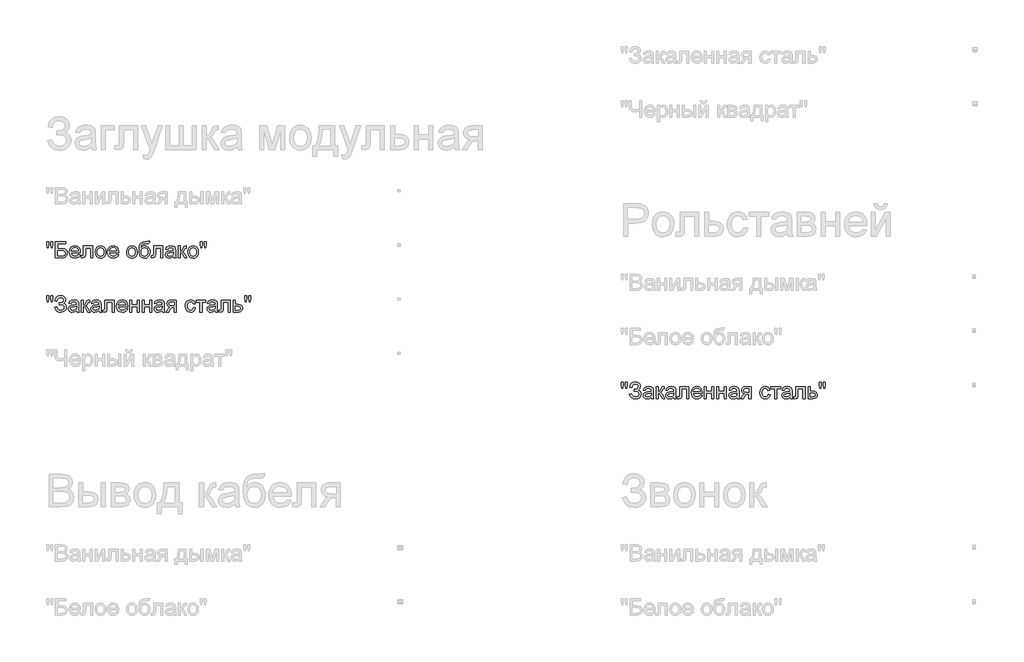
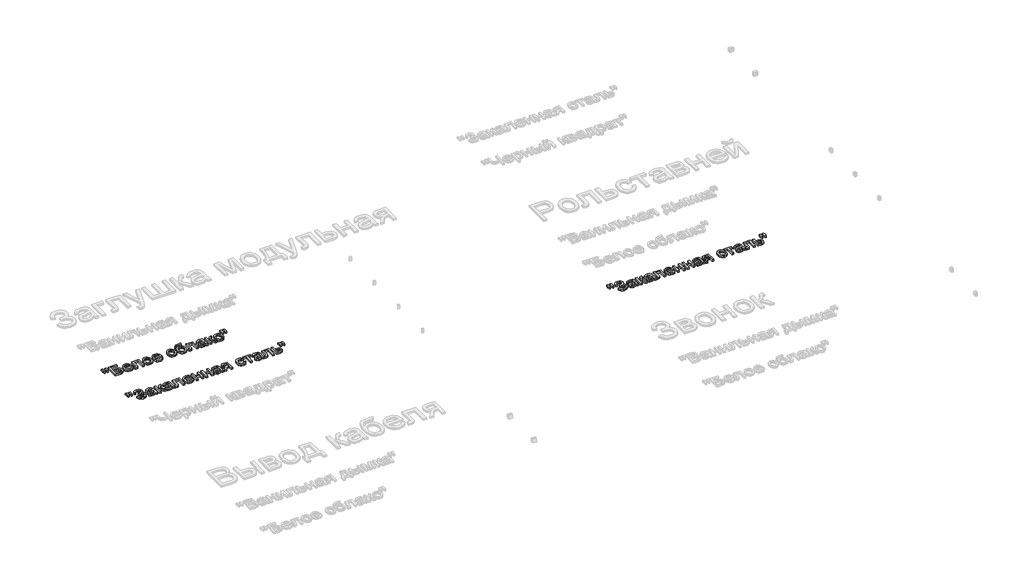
# One storey, part 67 of 168: 3 proxies.
"""IFC4 building model written with IfcOpenShell, lengths in millimetres."""

from ifc_helpers import new_model, si_unit, origin, origin_with_axes, place, context, project, spatial, polyline, outline, extrude, element, save

model = new_model("IFC4")

# Units and contexts
model_context = context("Model", 3, world=origin())
ifc_project = project(units=[si_unit("LENGTHUNIT", "METRE", prefix="MILLI")], contexts=[model_context])

# Site, building, storey
site = spatial("IfcSite", under=ifc_project)
building = spatial("IfcBuilding", under=site)
storey = spatial("IfcBuildingStorey", under=building, Name="Этаж 01", Elevation=0.0)

# Proxies
placement = place(None, origin())
element("IfcBuildingElementProxy", 1, Name="150", ObjectType="150", at=placement, inside=storey, context=model_context, shape_type="SweptSolid", body=[
    extrude(outline(polyline([(49080.1485789, -35170.3300622), (49075.550054, -35141.2305964), (49075.550054, -35116.1778325), (49094.3856121, -35116.1778325), (49094.3856121, -35141.2305964), (49090.2653338, -35170.3300622), (49080.1485789, -35170.3300622)])), origin_with_axes(), (0.0, 0.0, 1.0), 20.0),
    extrude(outline(polyline([(49117.7093306, -35170.3300622), (49113.2211703, -35141.2305964), (49113.2211703, -35116.1778325), (49132.0567284, -35116.1778325), (49132.0567284, -35141.2305964), (49127.6421445, -35170.3300622), (49117.7093306, -35170.3300622)])), origin_with_axes(), (0.0, 0.0, 1.0), 20.0),
    extrude(outline(polyline([(49157.9556209, -35116.1778325), (49252.1334117, -35116.1778325), (49252.1334117, -35135.0133907), (49176.791179, -35135.0133907), (49176.791179, -35179.7478413), (49212.0710624, -35179.7478413), (49243.157091, -35183.573814), (49253.5589544, -35189.101241), (49261.6615553, -35198.0315764), (49266.8762826, -35209.5278888), (49268.614525, -35222.7532465), (49263.6665122, -35244.2191609), (49248.8960501, -35260.5347274), (49235.6247071, -35265.2804052), (49215.4555767, -35266.8622977), (49157.9556209, -35266.8622977), (49157.9556209, -35116.1778325)]), holes=[polyline([(49176.791179, -35248.0267396), (49217.1478339, -35248.0267396), (49231.4124583, -35246.4724382), (49241.6119866, -35241.8095339), (49247.7372218, -35234.0380267), (49249.7789669, -35223.1579167), (49245.1068655, -35208.4058487), (49232.102237, -35200.533174), (49203.7201411, -35198.5833994), (49176.791179, -35198.5833994), (49176.791179, -35248.0267396)])]), origin_with_axes(), (0.0, 0.0, 1.0), 20.0),
    extrude(outline(polyline([(49369.6349209, -35233.900071), (49388.1025971, -35236.2545157), (49381.4485315, -35250.1696522), (49370.8305374, -35260.5715156), (49356.4877381, -35267.0554358), (49338.6592569, -35269.2167425), (49316.5587461, -35265.4873388), (49299.5534008, -35254.2991276), (49288.710079, -35236.3786759), (49285.0956384, -35212.4525506), (49288.7468672, -35187.7216835), (49299.7005536, -35169.2264162), (49316.4759726, -35157.6933157), (49337.5923991, -35153.8489488), (49358.0512366, -35157.6841186), (49374.3989927, -35169.189628), (49385.1181544, -35187.6481071), (49388.6912083, -35212.342186), (49388.5808437, -35217.4189576), (49303.9311966, -35217.4189576), (49307.1915508, -35231.518035), (49314.7653213, -35241.8831103), (49325.6960151, -35248.2566658), (49339.0271389, -35250.3811843), (49357.4948151, -35246.444847), (49369.6349209, -35233.900071)]), holes=[polyline([(49303.9311966, -35198.5833994), (49369.8556501, -35198.5833994), (49367.3080673, -35188.6321915), (49362.3140692, -35181.5136749), (49351.3327917, -35174.8917989), (49337.5188227, -35172.684507), (49324.8222954, -35174.445742), (49314.3238629, -35179.7294472), (49307.0260039, -35187.9654053), (49303.9311966, -35198.5833994)])]), origin_with_axes(), (0.0, 0.0, 1.0), 20.0),
    extrude(outline(polyline([(49416.9445455, -35156.2033936), (49501.7045572, -35156.2033936), (49501.7045572, -35266.7519331), (49482.868999, -35266.7519331), (49482.868999, -35175.0389517), (49435.7801036, -35175.0389517), (49435.7801036, -35227.830018), (49434.5109108, -35252.1838061), (49427.539547, -35262.4661079), (49411.0584336, -35266.8622977), (49395.7545426, -35265.9058045), (49395.7545426, -35248.0267396), (49404.1790403, -35248.0267396), (49412.6955084, -35246.8679113), (49416.0984169, -35243.1890913), (49416.9445455, -35226.7631603), (49416.9445455, -35156.2033936)])), origin_with_axes(), (0.0, 0.0, 1.0), 20.0),
    extrude(outline(polyline([(49525.2490049, -35211.5328457), (49529.323298, -35184.852204), (49541.5461773, -35166.0994193), (49556.6477332, -35156.9115664), (49574.7291332, -35153.8489488), (49594.516586, -35157.5783525), (49610.3217163, -35168.7665637), (49620.6821929, -35186.5306656), (49624.1356852, -35209.9877413), (49622.6089749, -35229.0164375), (49618.0288441, -35243.501791), (49610.5286499, -35254.3497114), (49600.2417496, -35262.4661079), (49588.0234688, -35267.5290839), (49574.7291332, -35269.2167425), (49554.7025571, -35265.5011344), (49538.915821, -35254.3543099), (49528.6657089, -35236.2177275), (49525.2490049, -35211.5328457)]), holes=[polyline([(49544.084563, -35211.4960575), (49546.2642638, -35228.5427894), (49552.8033663, -35240.6874938), (49562.6442097, -35247.9577617), (49574.7291332, -35250.3811843), (49586.7588745, -35247.9439661), (49596.5813237, -35240.6323115), (49603.1204262, -35228.3266587), (49605.300127, -35210.9074463), (49603.1066306, -35194.357355), (49596.5261414, -35182.3781975), (49586.6898966, -35175.1079296), (49574.7291332, -35172.684507), (49562.6442097, -35175.0987326), (49552.8033663, -35182.3414093), (49546.2642638, -35194.4585226), (49544.084563, -35211.4960575)])]), origin_with_axes(), (0.0, 0.0, 1.0), 20.0),
    extrude(outline(polyline([(49722.8016363, -35233.900071), (49741.2693124, -35236.2545157), (49734.6152469, -35250.1696522), (49723.9972528, -35260.5715156), (49709.6544535, -35267.0554358), (49691.8259723, -35269.2167425), (49669.7254614, -35265.4873388), (49652.7201162, -35254.2991276), (49641.8767944, -35236.3786759), (49638.2623538, -35212.4525506), (49641.9135826, -35187.7216835), (49652.867269, -35169.2264162), (49669.642688, -35157.6933157), (49690.7591145, -35153.8489488), (49711.217952, -35157.6841186), (49727.5657081, -35169.189628), (49738.2848698, -35187.6481071), (49741.8579236, -35212.342186), (49741.747559, -35217.4189576), (49657.0979119, -35217.4189576), (49660.3582661, -35231.518035), (49667.9320367, -35241.8831103), (49678.8627305, -35248.2566658), (49692.1938543, -35250.3811843), (49710.6615304, -35246.444847), (49722.8016363, -35233.900071)]), holes=[polyline([(49657.0979119, -35198.5833994), (49723.0223655, -35198.5833994), (49720.4747827, -35188.6321915), (49715.4807846, -35181.5136749), (49704.499507, -35174.8917989), (49690.6855381, -35172.684507), (49677.9890107, -35174.445742), (49667.4905783, -35179.7294472), (49660.1927192, -35187.9654053), (49657.0979119, -35198.5833994)])]), origin_with_axes(), (0.0, 0.0, 1.0), 20.0),
    extrude(outline(polyline([(49814.8457115, -35211.5328457), (49818.9200046, -35184.852204), (49831.1428839, -35166.0994193), (49846.2444398, -35156.9115664), (49864.3258398, -35153.8489488), (49884.1132926, -35157.5783525), (49899.9184229, -35168.7665637), (49910.2788995, -35186.5306656), (49913.7323918, -35209.9877413), (49912.2056815, -35229.0164375), (49907.6255507, -35243.501791), (49900.1253565, -35254.3497114), (49889.8384562, -35262.4661079), (49877.6201754, -35267.5290839), (49864.3258398, -35269.2167425), (49844.2992637, -35265.5011344), (49828.5125276, -35254.3543099), (49818.2624155, -35236.2177275), (49814.8457115, -35211.5328457)]), holes=[polyline([(49833.6812696, -35211.4960575), (49835.8609704, -35228.5427894), (49842.4000729, -35240.6874938), (49852.2409163, -35247.9577617), (49864.3258398, -35250.3811843), (49876.3555811, -35247.9439661), (49886.1780303, -35240.6323115), (49892.7171328, -35228.3266587), (49894.8968336, -35210.9074463), (49892.7033372, -35194.357355), (49886.122848, -35182.3781975), (49876.2866032, -35175.1079296), (49864.3258398, -35172.684507), (49852.2409163, -35175.0987326), (49842.4000729, -35182.3414093), (49835.8609704, -35194.4585226), (49833.6812696, -35211.4960575)])]), origin_with_axes(), (0.0, 0.0, 1.0), 20.0),
    extrude(outline(polyline([(50012.6190721, -35113.8233877), (50029.1001855, -35113.8233877), (50024.2441431, -35128.5202734), (50014.6424231, -35133.8361683), (49991.576222, -35135.0133907), (49960.5085875, -35139.3543982), (49953.3808738, -35145.0013868), (49948.5892108, -35153.2603376), (49944.560903, -35177.8716431), (49960.8764695, -35159.8454253), (49970.7954878, -35155.3480679), (49981.9009255, -35153.8489488), (50001.4998388, -35157.661126), (50017.401538, -35169.0976575), (50027.9413572, -35187.0365033), (50031.4546302, -35210.3556233), (50029.7117893, -35228.3358558), (50024.4832664, -35242.766027), (50007.9469707, -35262.3189551), (49996.6529935, -35267.4922957), (49981.9009255, -35269.2167425), (49964.9001788, -35266.995655), (49952.1576662, -35260.3323923), (49942.7812738, -35250.2064404), (49935.8788879, -35237.597285), (49931.6298508, -35218.6099755), (49930.2135052, -35189.3495614), (49933.786559, -35153.2097538), (49944.5057207, -35131.1690238), (49962.6377045, -35119.9256303), (49988.449225, -35116.1778325), (50009.4184987, -35115.7547682), (50012.6190721, -35113.8233877)]), holes=[polyline([(50012.6190721, -35209.7670121), (50010.577327, -35194.9459662), (50004.4520918, -35183.0771733), (49994.6112484, -35175.2826736), (49981.4226789, -35172.684507), (49967.6730893, -35175.4298264), (49957.473561, -35183.6657845), (49951.1551877, -35196.4910706), (49949.0490633, -35213.0043736), (49951.3759169, -35229.011839), (49958.3564778, -35240.7610702), (49968.7491442, -35247.9761558), (49981.3123143, -35250.3811843), (49993.9398638, -35247.5990768), (50003.937057, -35239.252754), (50010.4485683, -35226.3171033), (50012.6190721, -35209.7670121)])]), origin_with_axes(), (0.0, 0.0, 1.0), 20.0),
    extrude(outline(polyline([(50064.416857, -35156.2033936), (50149.1768687, -35156.2033936), (50149.1768687, -35266.7519331), (50130.3413105, -35266.7519331), (50130.3413105, -35175.0389517), (50083.2524152, -35175.0389517), (50083.2524152, -35227.830018), (50081.9832223, -35252.1838061), (50075.0118585, -35262.4661079), (50058.5307451, -35266.8622977), (50043.2268541, -35265.9058045), (50043.2268541, -35248.0267396), (50051.6513518, -35248.0267396), (50060.16782, -35246.8679113), (50063.5707284, -35243.1890913), (50064.416857, -35226.7631603), (50064.416857, -35156.2033936)])), origin_with_axes(), (0.0, 0.0, 1.0), 20.0),
    extrude(outline(polyline([(50248.063549, -35252.7356291), (50229.7982079, -35265.5011344), (50209.6198805, -35269.2167425), (50193.8791296, -35266.9818594), (50182.2678542, -35260.27721), (50175.1079508, -35250.0960758), (50172.7213164, -35237.4317381), (50176.3265599, -35222.5325173), (50185.7995213, -35211.7167867), (50198.9880908, -35205.5363691), (50215.2852632, -35202.7036778), (50247.9531844, -35196.2289547), (50248.063549, -35192.0350999), (50246.766765, -35183.6289963), (50242.8764129, -35178.1291605), (50234.1760037, -35174.0456704), (50222.0542919, -35172.684507), (50202.9980046, -35176.3081446), (50193.9113193, -35189.1656204), (50175.0757612, -35186.8111756), (50183.2243473, -35168.4170758), (50199.6318843, -35157.6381334), (50224.4823131, -35153.8489488), (50247.3093909, -35157.196675), (50260.2036548, -35165.6027786), (50265.9794022, -35178.3866779), (50266.8991071, -35194.8677913), (50266.8991071, -35218.3018744), (50267.8556003, -35251.0249778), (50271.6079967, -35266.8622977), (50252.7724385, -35266.8622977), (50248.063549, -35252.7356291)]), holes=[polyline([(50248.063549, -35215.0645128), (50217.6764962, -35220.8402601), (50201.4712943, -35223.8936807), (50194.1320485, -35228.8600876), (50191.5568745, -35236.1073629), (50197.167075, -35246.2976942), (50213.6297942, -35250.3811843), (50232.6860816, -35245.8746299), (50244.9733402, -35234.9669288), (50247.9531844, -35220.3988017), (50248.063549, -35215.0645128)])]), origin_with_axes(), (0.0, 0.0, 1.0), 20.0),
    extrude(outline(polyline([(50292.7979996, -35156.2033936), (50311.6335578, -35156.2033936), (50311.6335578, -35203.292289), (50324.2519102, -35199.9077746), (50334.5893943, -35180.1892997), (50343.1794388, -35163.1747574), (50350.7578079, -35157.6381334), (50364.5349887, -35156.2033936), (50368.1402322, -35156.2033936), (50368.1402322, -35175.1493163), (50363.0634607, -35175.0389517), (50353.8664108, -35177.0255145), (50347.3916877, -35189.4231377), (50339.7949245, -35202.8324365), (50329.1447407, -35209.3991301), (50341.0273292, -35216.7291788), (50352.6891884, -35232.1710256), (50372.8491218, -35266.8622977), (50351.4383896, -35266.8622977), (50331.6831265, -35232.9067896), (50321.7503126, -35218.5409977), (50311.6335578, -35215.0645128), (50311.6335578, -35266.8622977), (50292.7979996, -35266.8622977), (50292.7979996, -35156.2033936)])), origin_with_axes(), (0.0, 0.0, 1.0), 20.0),
    extrude(outline(polyline([(50379.9124561, -35211.5328457), (50383.9867492, -35184.852204), (50396.2096285, -35166.0994193), (50411.3111844, -35156.9115664), (50429.3925844, -35153.8489488), (50449.1800372, -35157.5783525), (50464.9851674, -35168.7665637), (50475.3456441, -35186.5306656), (50478.7991364, -35209.9877413), (50477.2724261, -35229.0164375), (50472.6922952, -35243.501791), (50465.1921011, -35254.3497114), (50454.9052008, -35262.4661079), (50442.68692, -35267.5290839), (50429.3925844, -35269.2167425), (50409.3660083, -35265.5011344), (50393.5792722, -35254.3543099), (50383.3291601, -35236.2177275), (50379.9124561, -35211.5328457)]), holes=[polyline([(50398.7480142, -35211.4960575), (50400.927715, -35228.5427894), (50407.4668175, -35240.6874938), (50417.3076609, -35247.9577617), (50429.3925844, -35250.3811843), (50441.4223257, -35247.9439661), (50451.2447749, -35240.6323115), (50457.7838774, -35228.3266587), (50459.9635782, -35210.9074463), (50457.7700818, -35194.357355), (50451.1895926, -35182.3781975), (50441.3533478, -35175.1079296), (50429.3925844, -35172.684507), (50417.3076609, -35175.0987326), (50407.4668175, -35182.3414093), (50400.927715, -35194.4585226), (50398.7480142, -35211.4960575)])]), origin_with_axes(), (0.0, 0.0, 1.0), 20.0),
    extrude(outline(polyline([(50499.8787747, -35170.3300622), (50495.2802498, -35141.2305964), (50495.2802498, -35116.1778325), (50514.1158079, -35116.1778325), (50514.1158079, -35141.2305964), (50509.9955296, -35170.3300622), (50499.8787747, -35170.3300622)])), origin_with_axes(), (0.0, 0.0, 1.0), 20.0),
    extrude(outline(polyline([(50537.4395264, -35170.3300622), (50532.9513661, -35141.2305964), (50532.9513661, -35116.1778325), (50551.7869242, -35116.1778325), (50551.7869242, -35141.2305964), (50547.3723403, -35170.3300622), (50537.4395264, -35170.3300622)])), origin_with_axes(), (0.0, 0.0, 1.0), 20.0),
])
element("IfcBuildingElementProxy", 2, Name="150", ObjectType="150", at=placement, inside=storey, context=model_context, shape_type="SweptSolid", body=[
    extrude(outline(polyline([(49080.1485789, -35670.3300622), (49075.550054, -35641.2305964), (49075.550054, -35616.1778325), (49094.3856121, -35616.1778325), (49094.3856121, -35641.2305964), (49090.2653338, -35670.3300622), (49080.1485789, -35670.3300622)])), origin_with_axes(), (0.0, 0.0, 1.0), 20.0),
    extrude(outline(polyline([(49117.7093306, -35670.3300622), (49113.2211703, -35641.2305964), (49113.2211703, -35616.1778325), (49132.0567284, -35616.1778325), (49132.0567284, -35641.2305964), (49127.6421445, -35670.3300622), (49117.7093306, -35670.3300622)])), origin_with_axes(), (0.0, 0.0, 1.0), 20.0),
    extrude(outline(polyline([(49150.8922866, -35724.4822919), (49169.7278447, -35719.7734024), (49181.2977335, -35740.172459), (49192.2284273, -35747.829003), (49206.2217387, -35750.3811843), (49220.398991, -35748.4635995), (49231.2193202, -35742.7108448), (49238.0757209, -35734.2449603), (49240.3611878, -35724.1879863), (49237.8641888, -35713.6527657), (49230.3731916, -35705.517975), (49218.5779752, -35700.3170433), (49203.1683181, -35698.5833994), (49193.2722924, -35698.5833994), (49193.2722924, -35679.7478413), (49214.591054, -35678.221131), (49227.6324708, -35670.4220327), (49233.2978535, -35656.1666054), (49231.4124583, -35647.2960508), (49225.7562726, -35639.6670979), (49216.8811195, -35634.4109839), (49205.3388219, -35632.6589459), (49186.1169876, -35638.0484171), (49175.117316, -35652.3406326), (49172.0822895, -35665.6211727), (49153.2467313, -35660.9122831), (49159.0983543, -35640.3108914), (49169.7002536, -35625.5956116), (49185.0524291, -35616.7664437), (49205.1548809, -35613.8233877), (49224.5468605, -35616.8814068), (49239.4598769, -35626.0554641), (49248.965028, -35639.3222085), (49252.1334117, -35654.6582892), (49247.2037929, -35673.3007093), (49232.4149367, -35687.2158458), (49242.8903765, -35692.0396984), (49251.5080123, -35700.1836861), (49257.2745625, -35710.948833), (49259.196746, -35723.6361633), (49255.508729, -35741.4738415), (49244.444678, -35756.1385376), (49227.2921799, -35765.9471913), (49205.3388219, -35769.2167425), (49186.2365493, -35766.4208393), (49170.7947025, -35758.0331298), (49159.0132816, -35744.053614), (49150.8922866, -35724.4822919)])), origin_with_axes(), (0.0, 0.0, 1.0), 20.0),
    extrude(outline(polyline([(49353.3745367, -35752.7356291), (49335.1091957, -35765.5011344), (49314.9308682, -35769.2167425), (49299.1901174, -35766.9818594), (49287.5788419, -35760.27721), (49280.4189386, -35750.0960758), (49278.0323041, -35737.4317381), (49281.6375477, -35722.5325173), (49291.110509, -35711.7167867), (49304.2990786, -35705.5363691), (49320.596251, -35702.7036778), (49353.2641721, -35696.2289547), (49353.3745367, -35692.0350999), (49352.0777527, -35683.6289963), (49348.1874006, -35678.1291605), (49339.4869914, -35674.0456704), (49327.3652797, -35672.684507), (49308.3089923, -35676.3081446), (49299.222307, -35689.1656204), (49280.3867489, -35686.8111756), (49288.5353351, -35668.4170758), (49304.9428721, -35657.6381334), (49329.7933008, -35653.8489488), (49352.6203786, -35657.196675), (49365.5146426, -35665.6027786), (49371.2903899, -35678.3866779), (49372.2100949, -35694.8677913), (49372.2100949, -35718.3018744), (49373.1665881, -35751.0249778), (49376.9189844, -35766.8622977), (49358.0834263, -35766.8622977), (49353.3745367, -35752.7356291)]), holes=[polyline([(49353.3745367, -35715.0645128), (49322.9874839, -35720.8402601), (49306.782282, -35723.8936807), (49299.4430362, -35728.8600876), (49296.8678623, -35736.1073629), (49302.4780627, -35746.2976942), (49318.940782, -35750.3811843), (49337.9970693, -35745.8746299), (49350.284328, -35734.9669288), (49353.2641721, -35720.3988017), (49353.3745367, -35715.0645128)])]), origin_with_axes(), (0.0, 0.0, 1.0), 20.0),
    extrude(outline(polyline([(49398.1089873, -35656.2033936), (49416.9445455, -35656.2033936), (49416.9445455, -35703.292289), (49429.5628979, -35699.9077746), (49439.900382, -35680.1892997), (49448.4904266, -35663.1747574), (49456.0687957, -35657.6381334), (49469.8459764, -35656.2033936), (49473.4512199, -35656.2033936), (49473.4512199, -35675.1493163), (49468.3744484, -35675.0389517), (49459.1773985, -35677.0255145), (49452.7026754, -35689.4231377), (49445.1059122, -35702.8324365), (49434.4557285, -35709.3991301), (49446.3383169, -35716.7291788), (49458.0001762, -35732.1710256), (49478.1601095, -35766.8622977), (49456.7493774, -35766.8622977), (49436.9941142, -35732.9067896), (49427.0613004, -35718.5409977), (49416.9445455, -35715.0645128), (49416.9445455, -35766.8622977), (49398.1089873, -35766.8622977), (49398.1089873, -35656.2033936)])), origin_with_axes(), (0.0, 0.0, 1.0), 20.0),
    extrude(outline(polyline([(49560.5656764, -35752.7356291), (49542.3003353, -35765.5011344), (49522.1220079, -35769.2167425), (49506.381257, -35766.9818594), (49494.7699816, -35760.27721), (49487.6100782, -35750.0960758), (49485.2234438, -35737.4317381), (49488.8286873, -35722.5325173), (49498.3016487, -35711.7167867), (49511.4902183, -35705.5363691), (49527.7873906, -35702.7036778), (49560.4553118, -35696.2289547), (49560.5656764, -35692.0350999), (49559.2688924, -35683.6289963), (49555.3785403, -35678.1291605), (49546.6781311, -35674.0456704), (49534.5564193, -35672.684507), (49515.500132, -35676.3081446), (49506.4134467, -35689.1656204), (49487.5778886, -35686.8111756), (49495.7264748, -35668.4170758), (49512.1340117, -35657.6381334), (49536.9844405, -35653.8489488), (49559.8115183, -35657.196675), (49572.7057822, -35665.6027786), (49578.4815296, -35678.3866779), (49579.4012346, -35694.8677913), (49579.4012346, -35718.3018744), (49580.3577277, -35751.0249778), (49584.1101241, -35766.8622977), (49565.2745659, -35766.8622977), (49560.5656764, -35752.7356291)]), holes=[polyline([(49560.5656764, -35715.0645128), (49530.1786236, -35720.8402601), (49513.9734217, -35723.8936807), (49506.6341759, -35728.8600876), (49504.0590019, -35736.1073629), (49509.6692024, -35746.2976942), (49526.1319217, -35750.3811843), (49545.188209, -35745.8746299), (49557.4754676, -35734.9669288), (49560.4553118, -35720.3988017), (49560.5656764, -35715.0645128)])]), origin_with_axes(), (0.0, 0.0, 1.0), 20.0),
    extrude(outline(polyline([(49614.7179061, -35656.2033936), (49699.4779178, -35656.2033936), (49699.4779178, -35766.7519331), (49680.6423596, -35766.7519331), (49680.6423596, -35675.0389517), (49633.5534643, -35675.0389517), (49633.5534643, -35727.830018), (49632.2842714, -35752.1838061), (49625.3129076, -35762.4661079), (49608.8317942, -35766.8622977), (49593.5279032, -35765.9058045), (49593.5279032, -35748.0267396), (49601.9524009, -35748.0267396), (49610.4688691, -35746.8679113), (49613.8717775, -35743.1890913), (49614.7179061, -35726.7631603), (49614.7179061, -35656.2033936)])), origin_with_axes(), (0.0, 0.0, 1.0), 20.0),
    extrude(outline(polyline([(49805.2072032, -35733.900071), (49823.6748794, -35736.2545157), (49817.0208138, -35750.1696522), (49806.4028197, -35760.5715156), (49792.0600204, -35767.0554358), (49774.2315392, -35769.2167425), (49752.1310283, -35765.4873388), (49735.1256831, -35754.2991276), (49724.2823613, -35736.3786759), (49720.6679207, -35712.4525506), (49724.3191495, -35687.7216835), (49735.2728359, -35669.2264162), (49752.0482549, -35657.6933157), (49773.1646814, -35653.8489488), (49793.6235189, -35657.6841186), (49809.971275, -35669.189628), (49820.6904367, -35687.6481071), (49824.2634906, -35712.342186), (49824.153126, -35717.4189576), (49739.5034789, -35717.4189576), (49742.763833, -35731.518035), (49750.3376036, -35741.8831103), (49761.2682974, -35748.2566658), (49774.5994212, -35750.3811843), (49793.0670974, -35746.444847), (49805.2072032, -35733.900071)]), holes=[polyline([(49739.5034789, -35698.5833994), (49805.4279324, -35698.5833994), (49802.8803496, -35688.6321915), (49797.8863515, -35681.5136749), (49786.9050739, -35674.8917989), (49773.091105, -35672.684507), (49760.3945777, -35674.445742), (49749.8961452, -35679.7294472), (49742.5982861, -35687.9654053), (49739.5034789, -35698.5833994)])]), origin_with_axes(), (0.0, 0.0, 1.0), 20.0),
    extrude(outline(polyline([(49843.0990487, -35656.2033936), (49861.9346069, -35656.2033936), (49861.9346069, -35698.5833994), (49911.377947, -35698.5833994), (49911.377947, -35656.2033936), (49930.2135052, -35656.2033936), (49930.2135052, -35766.8622977), (49911.377947, -35766.8622977), (49911.377947, -35717.4189576), (49861.9346069, -35717.4189576), (49861.9346069, -35766.8622977), (49843.0990487, -35766.8622977), (49843.0990487, -35656.2033936)])), origin_with_axes(), (0.0, 0.0, 1.0), 20.0),
    extrude(outline(polyline([(49958.4668424, -35656.2033936), (49977.3024005, -35656.2033936), (49977.3024005, -35698.5833994), (50026.7457407, -35698.5833994), (50026.7457407, -35656.2033936), (50045.5812988, -35656.2033936), (50045.5812988, -35766.8622977), (50026.7457407, -35766.8622977), (50026.7457407, -35717.4189576), (49977.3024005, -35717.4189576), (49977.3024005, -35766.8622977), (49958.4668424, -35766.8622977), (49958.4668424, -35656.2033936)])), origin_with_axes(), (0.0, 0.0, 1.0), 20.0),
    extrude(outline(polyline([(50144.4679792, -35752.7356291), (50126.2026381, -35765.5011344), (50106.0243107, -35769.2167425), (50090.2835598, -35766.9818594), (50078.6722843, -35760.27721), (50071.512381, -35750.0960758), (50069.1257465, -35737.4317381), (50072.7309901, -35722.5325173), (50082.2039515, -35711.7167867), (50095.392521, -35705.5363691), (50111.6896934, -35702.7036778), (50144.3576146, -35696.2289547), (50144.4679792, -35692.0350999), (50143.1711951, -35683.6289963), (50139.280843, -35678.1291605), (50130.5804338, -35674.0456704), (50118.4587221, -35672.684507), (50099.4024347, -35676.3081446), (50090.3157495, -35689.1656204), (50071.4801913, -35686.8111756), (50079.6287775, -35668.4170758), (50096.0363145, -35657.6381334), (50120.8867433, -35653.8489488), (50143.7138211, -35657.196675), (50156.608085, -35665.6027786), (50162.3838323, -35678.3866779), (50163.3035373, -35694.8677913), (50163.3035373, -35718.3018744), (50164.2600305, -35751.0249778), (50168.0124268, -35766.8622977), (50149.1768687, -35766.8622977), (50144.4679792, -35752.7356291)]), holes=[polyline([(50144.4679792, -35715.0645128), (50114.0809264, -35720.8402601), (50097.8757245, -35723.8936807), (50090.5364787, -35728.8600876), (50087.9613047, -35736.1073629), (50093.5715051, -35746.2976942), (50110.0342244, -35750.3811843), (50129.0905118, -35745.8746299), (50141.3777704, -35734.9669288), (50144.3576146, -35720.3988017), (50144.4679792, -35715.0645128)])]), origin_with_axes(), (0.0, 0.0, 1.0), 20.0),
    extrude(outline(polyline([(50273.9624415, -35656.2033936), (50273.9624415, -35766.8622977), (50255.1268833, -35766.8622977), (50255.1268833, -35724.4822919), (50244.8629756, -35724.4822919), (50230.8834598, -35726.8735249), (50217.7500726, -35742.949968), (50202.7404872, -35766.8622977), (50180.9618731, -35766.8622977), (50199.8710076, -35736.6223977), (50208.2219289, -35725.7698789), (50215.9106626, -35720.9506247), (50203.0347928, -35717.0050903), (50193.9848957, -35709.5094947), (50188.6322127, -35699.5398926), (50186.847985, -35688.172339), (50189.2852032, -35675.278075), (50196.5968579, -35665.0693497), (50208.5254316, -35658.4198826), (50224.8134069, -35656.2033936), (50273.9624415, -35656.2033936)]), holes=[polyline([(50255.1268833, -35675.0389517), (50230.2948486, -35675.0389517), (50217.4695626, -35676.1288021), (50210.1900976, -35679.3983534), (50205.6835431, -35689.6070787), (50207.3436107, -35696.7853762), (50212.3238132, -35701.7655787), (50235.8498668, -35705.6467337), (50255.1268833, -35705.6467337), (50255.1268833, -35675.0389517)])]), origin_with_axes(), (0.0, 0.0, 1.0), 20.0),
    extrude(outline(polyline([(50431.710241, -35726.8367367), (50450.5457991, -35729.1911814), (50445.2942837, -35745.9436078), (50435.4258491, -35758.6033469), (50421.8693976, -35766.5633936), (50405.5538311, -35769.2167425), (50385.518058, -35765.5149299), (50369.8508835, -35754.4094922), (50359.7387272, -35736.387873), (50356.3680084, -35711.9375159), (50357.8073467, -35695.1758924), (50362.1253616, -35680.6491522), (50369.391031, -35668.918315), (50379.6733328, -35660.5444011), (50391.974387, -35655.5228119), (50405.2963137, -35653.8489488), (50421.2118085, -35656.1482113), (50433.9359271, -35663.0459987), (50443.0639991, -35674.174429), (50448.1913544, -35689.1656204), (50429.3557962, -35691.5200651), (50420.6185988, -35677.4117906), (50405.4434665, -35672.684507), (50393.271171, -35675.0113606), (50383.6096701, -35681.9919214), (50377.3050924, -35694.0032686), (50375.2035665, -35711.4224811), (50377.2591072, -35729.0762183), (50383.4257291, -35741.1289522), (50392.9124861, -35748.0681263), (50404.9284317, -35750.3811843), (50414.6819031, -35748.9372475), (50422.678738, -35744.605437), (50428.4958721, -35737.2753883), (50431.710241, -35726.8367367)])), origin_with_axes(), (0.0, 0.0, 1.0), 20.0),
    extrude(outline(polyline([(50457.6091334, -35656.2033936), (50547.0780347, -35656.2033936), (50547.0780347, -35675.0389517), (50511.7613631, -35675.0389517), (50511.7613631, -35766.8622977), (50492.925805, -35766.8622977), (50492.925805, -35675.0389517), (50457.6091334, -35675.0389517), (50457.6091334, -35656.2033936)])), origin_with_axes(), (0.0, 0.0, 1.0), 20.0),
    extrude(outline(polyline([(50634.1924911, -35752.7356291), (50615.9271501, -35765.5011344), (50595.7488226, -35769.2167425), (50580.0080718, -35766.9818594), (50568.3967963, -35760.27721), (50561.236893, -35750.0960758), (50558.8502585, -35737.4317381), (50562.4555021, -35722.5325173), (50571.9284634, -35711.7167867), (50585.117033, -35705.5363691), (50601.4142054, -35702.7036778), (50634.0821265, -35696.2289547), (50634.1924911, -35692.0350999), (50632.8957071, -35683.6289963), (50629.005355, -35678.1291605), (50620.3049458, -35674.0456704), (50608.1832341, -35672.684507), (50589.1269467, -35676.3081446), (50580.0402614, -35689.1656204), (50561.2047033, -35686.8111756), (50569.3532895, -35668.4170758), (50585.7608265, -35657.6381334), (50610.6112552, -35653.8489488), (50633.438333, -35657.196675), (50646.332597, -35665.6027786), (50652.1083443, -35678.3866779), (50653.0280493, -35694.8677913), (50653.0280493, -35718.3018744), (50653.9845425, -35751.0249778), (50657.7369388, -35766.8622977), (50638.9013807, -35766.8622977), (50634.1924911, -35752.7356291)]), holes=[polyline([(50634.1924911, -35715.0645128), (50603.8054383, -35720.8402601), (50587.6002364, -35723.8936807), (50580.2609906, -35728.8600876), (50577.6858167, -35736.1073629), (50583.2960171, -35746.2976942), (50599.7587364, -35750.3811843), (50618.8150237, -35745.8746299), (50631.1022824, -35734.9669288), (50634.0821265, -35720.3988017), (50634.1924911, -35715.0645128)])]), origin_with_axes(), (0.0, 0.0, 1.0), 20.0),
    extrude(outline(polyline([(50688.3447208, -35656.2033936), (50773.1047325, -35656.2033936), (50773.1047325, -35766.7519331), (50754.2691744, -35766.7519331), (50754.2691744, -35675.0389517), (50707.180279, -35675.0389517), (50707.180279, -35727.830018), (50705.9110861, -35752.1838061), (50698.9397223, -35762.4661079), (50682.4586089, -35766.8622977), (50667.1547179, -35765.9058045), (50667.1547179, -35748.0267396), (50675.5792156, -35748.0267396), (50684.0956838, -35746.8679113), (50687.4985922, -35743.1890913), (50688.3447208, -35726.7631603), (50688.3447208, -35656.2033936)])), origin_with_axes(), (0.0, 0.0, 1.0), 20.0),
    extrude(outline(polyline([(50801.3580697, -35656.2033936), (50820.1936279, -35656.2033936), (50820.1936279, -35696.2289547), (50841.8986656, -35696.2289547), (50860.7158297, -35698.587998), (50874.6401632, -35705.6651278), (50883.2486019, -35716.8901272), (50886.1180814, -35731.692779), (50883.6762647, -35745.1710556), (50876.3508145, -35756.5432078), (50863.6542871, -35764.2825252), (50845.099239, -35766.8622977), (50801.3580697, -35766.8622977), (50801.3580697, -35656.2033936)]), holes=[polyline([(50820.1936279, -35748.0267396), (50837.7783873, -35748.0267396), (50860.4951005, -35744.0720081), (50865.5856676, -35739.0090322), (50867.2825233, -35731.7295672), (50862.260934, -35720.1412843), (50854.1905228, -35716.3337057), (50840.0224674, -35715.0645128), (50820.1936279, -35715.0645128), (50820.1936279, -35748.0267396)])]), origin_with_axes(), (0.0, 0.0, 1.0), 20.0),
    extrude(outline(polyline([(50909.5521645, -35670.3300622), (50904.9536396, -35641.2305964), (50904.9536396, -35616.1778325), (50923.7891977, -35616.1778325), (50923.7891977, -35641.2305964), (50919.6689194, -35670.3300622), (50909.5521645, -35670.3300622)])), origin_with_axes(), (0.0, 0.0, 1.0), 20.0),
    extrude(outline(polyline([(50947.1129162, -35670.3300622), (50942.6247559, -35641.2305964), (50942.6247559, -35616.1778325), (50961.460314, -35616.1778325), (50961.460314, -35641.2305964), (50957.0457301, -35670.3300622), (50947.1129162, -35670.3300622)])), origin_with_axes(), (0.0, 0.0, 1.0), 20.0),
])
element("IfcBuildingElementProxy", 3, Name="150", ObjectType="150", at=placement, inside=storey, context=model_context, shape_type="SweptSolid", body=[
    extrude(outline(polyline([(54389.7772739, -36470.3300622), (54385.178749, -36441.2305964), (54385.178749, -36416.1778325), (54404.0143071, -36416.1778325), (54404.0143071, -36441.2305964), (54399.8940288, -36470.3300622), (54389.7772739, -36470.3300622)])), origin_with_axes(), (0.0, 0.0, 1.0), 20.0),
    extrude(outline(polyline([(54427.3380256, -36470.3300622), (54422.8498653, -36441.2305964), (54422.8498653, -36416.1778325), (54441.6854234, -36416.1778325), (54441.6854234, -36441.2305964), (54437.2708395, -36470.3300622), (54427.3380256, -36470.3300622)])), origin_with_axes(), (0.0, 0.0, 1.0), 20.0),
    extrude(outline(polyline([(54460.5209816, -36524.4822919), (54479.3565398, -36519.7734024), (54490.9264285, -36540.172459), (54501.8571223, -36547.829003), (54515.8504337, -36550.3811843), (54530.0276861, -36548.4635995), (54540.8480152, -36542.7108448), (54547.7044159, -36534.2449603), (54549.9898828, -36524.1879863), (54547.4928838, -36513.6527657), (54540.0018867, -36505.517975), (54528.2066702, -36500.3170433), (54512.7970131, -36498.5833994), (54502.9009874, -36498.5833994), (54502.9009874, -36479.7478413), (54524.2197491, -36478.221131), (54537.2611658, -36470.4220327), (54542.9265485, -36456.1666054), (54541.0411533, -36447.2960508), (54535.3849676, -36439.6670979), (54526.5098145, -36434.4109839), (54514.9675169, -36432.6589459), (54495.7456826, -36438.0484171), (54484.746011, -36452.3406326), (54481.7109845, -36465.6211727), (54462.8754264, -36460.9122831), (54468.7270494, -36440.3108914), (54479.3289486, -36425.5956116), (54494.6811241, -36416.7664437), (54514.7835759, -36413.8233877), (54534.1755556, -36416.8814068), (54549.0885719, -36426.0554641), (54558.593723, -36439.3222085), (54561.7621067, -36454.6582892), (54556.8324879, -36473.3007093), (54542.0436317, -36487.2158458), (54552.5190715, -36492.0396984), (54561.1367073, -36500.1836861), (54566.9032576, -36510.948833), (54568.825441, -36523.6361633), (54565.137424, -36541.4738415), (54554.073373, -36556.1385376), (54536.9208749, -36565.9471913), (54514.9675169, -36569.2167425), (54495.8652443, -36566.4208393), (54480.4233975, -36558.0331298), (54468.6419766, -36544.053614), (54460.5209816, -36524.4822919)])), origin_with_axes(), (0.0, 0.0, 1.0), 20.0),
    extrude(outline(polyline([(54663.0032317, -36552.7356291), (54644.7378907, -36565.5011344), (54624.5595633, -36569.2167425), (54608.8188124, -36566.9818594), (54597.2075369, -36560.27721), (54590.0476336, -36550.0960758), (54587.6609991, -36537.4317381), (54591.2662427, -36522.5325173), (54600.7392041, -36511.7167867), (54613.9277736, -36505.5363691), (54630.224946, -36502.7036778), (54662.8928671, -36496.2289547), (54663.0032317, -36492.0350999), (54661.7064477, -36483.6289963), (54657.8160956, -36478.1291605), (54649.1156864, -36474.0456704), (54636.9939747, -36472.684507), (54617.9376873, -36476.3081446), (54608.8510021, -36489.1656204), (54590.0154439, -36486.8111756), (54598.1640301, -36468.4170758), (54614.5715671, -36457.6381334), (54639.4219959, -36453.8489488), (54662.2490737, -36457.196675), (54675.1433376, -36465.6027786), (54680.9190849, -36478.3866779), (54681.8387899, -36494.8677913), (54681.8387899, -36518.3018744), (54682.7952831, -36551.0249778), (54686.5476794, -36566.8622977), (54667.7121213, -36566.8622977), (54663.0032317, -36552.7356291)]), holes=[polyline([(54663.0032317, -36515.0645128), (54632.6161789, -36520.8402601), (54616.4109771, -36523.8936807), (54609.0717313, -36528.8600876), (54606.4965573, -36536.1073629), (54612.1067577, -36546.2976942), (54628.569477, -36550.3811843), (54647.6257643, -36545.8746299), (54659.913023, -36534.9669288), (54662.8928671, -36520.3988017), (54663.0032317, -36515.0645128)])]), origin_with_axes(), (0.0, 0.0, 1.0), 20.0),
    extrude(outline(polyline([(54707.7376824, -36456.2033936), (54726.5732405, -36456.2033936), (54726.5732405, -36503.292289), (54739.1915929, -36499.9077746), (54749.529077, -36480.1892997), (54758.1191216, -36463.1747574), (54765.6974907, -36457.6381334), (54779.4746714, -36456.2033936), (54783.079915, -36456.2033936), (54783.079915, -36475.1493163), (54778.0031434, -36475.0389517), (54768.8060936, -36477.0255145), (54762.3313704, -36489.4231377), (54754.7346072, -36502.8324365), (54744.0844235, -36509.3991301), (54755.9670119, -36516.7291788), (54767.6288712, -36532.1710256), (54787.7888045, -36566.8622977), (54766.3780724, -36566.8622977), (54746.6228092, -36532.9067896), (54736.6899954, -36518.5409977), (54726.5732405, -36515.0645128), (54726.5732405, -36566.8622977), (54707.7376824, -36566.8622977), (54707.7376824, -36456.2033936)])), origin_with_axes(), (0.0, 0.0, 1.0), 20.0),
    extrude(outline(polyline([(54870.1943714, -36552.7356291), (54851.9290304, -36565.5011344), (54831.7507029, -36569.2167425), (54816.0099521, -36566.9818594), (54804.3986766, -36560.27721), (54797.2387733, -36550.0960758), (54794.8521388, -36537.4317381), (54798.4573824, -36522.5325173), (54807.9303437, -36511.7167867), (54821.1189133, -36505.5363691), (54837.4160857, -36502.7036778), (54870.0840068, -36496.2289547), (54870.1943714, -36492.0350999), (54868.8975874, -36483.6289963), (54865.0072353, -36478.1291605), (54856.3068261, -36474.0456704), (54844.1851144, -36472.684507), (54825.128827, -36476.3081446), (54816.0421417, -36489.1656204), (54797.2065836, -36486.8111756), (54805.3551698, -36468.4170758), (54821.7627068, -36457.6381334), (54846.6131355, -36453.8489488), (54869.4402133, -36457.196675), (54882.3344773, -36465.6027786), (54888.1102246, -36478.3866779), (54889.0299296, -36494.8677913), (54889.0299296, -36518.3018744), (54889.9864228, -36551.0249778), (54893.7388191, -36566.8622977), (54874.903261, -36566.8622977), (54870.1943714, -36552.7356291)]), holes=[polyline([(54870.1943714, -36515.0645128), (54839.8073186, -36520.8402601), (54823.6021167, -36523.8936807), (54816.2628709, -36528.8600876), (54813.687697, -36536.1073629), (54819.2978974, -36546.2976942), (54835.7606167, -36550.3811843), (54854.816904, -36545.8746299), (54867.1041627, -36534.9669288), (54870.0840068, -36520.3988017), (54870.1943714, -36515.0645128)])]), origin_with_axes(), (0.0, 0.0, 1.0), 20.0),
    extrude(outline(polyline([(54924.3466011, -36456.2033936), (55009.1066128, -36456.2033936), (55009.1066128, -36566.7519331), (54990.2710547, -36566.7519331), (54990.2710547, -36475.0389517), (54943.1821593, -36475.0389517), (54943.1821593, -36527.830018), (54941.9129664, -36552.1838061), (54934.9416026, -36562.4661079), (54918.4604892, -36566.8622977), (54903.1565982, -36565.9058045), (54903.1565982, -36548.0267396), (54911.5810959, -36548.0267396), (54920.0975641, -36546.8679113), (54923.5004725, -36543.1890913), (54924.3466011, -36526.7631603), (54924.3466011, -36456.2033936)])), origin_with_axes(), (0.0, 0.0, 1.0), 20.0),
    extrude(outline(polyline([(55114.8358982, -36533.900071), (55133.3035744, -36536.2545157), (55126.6495088, -36550.1696522), (55116.0315147, -36560.5715156), (55101.6887154, -36567.0554358), (55083.8602342, -36569.2167425), (55061.7597234, -36565.4873388), (55044.7543781, -36554.2991276), (55033.9110563, -36536.3786759), (55030.2966157, -36512.4525506), (55033.9478445, -36487.7216835), (55044.9015309, -36469.2264162), (55061.6769499, -36457.6933157), (55082.7933764, -36453.8489488), (55103.2522139, -36457.6841186), (55119.5999701, -36469.189628), (55130.3191317, -36487.6481071), (55133.8921856, -36512.342186), (55133.781821, -36517.4189576), (55049.1321739, -36517.4189576), (55052.3925281, -36531.518035), (55059.9662986, -36541.8831103), (55070.8969924, -36548.2566658), (55084.2281162, -36550.3811843), (55102.6957924, -36546.444847), (55114.8358982, -36533.900071)]), holes=[polyline([(55049.1321739, -36498.5833994), (55115.0566274, -36498.5833994), (55112.5090446, -36488.6321915), (55107.5150465, -36481.5136749), (55096.533769, -36474.8917989), (55082.7198, -36472.684507), (55070.0232727, -36474.445742), (55059.5248402, -36479.7294472), (55052.2269812, -36487.9654053), (55049.1321739, -36498.5833994)])]), origin_with_axes(), (0.0, 0.0, 1.0), 20.0),
    extrude(outline(polyline([(55152.7277437, -36456.2033936), (55171.5633019, -36456.2033936), (55171.5633019, -36498.5833994), (55221.006642, -36498.5833994), (55221.006642, -36456.2033936), (55239.8422002, -36456.2033936), (55239.8422002, -36566.8622977), (55221.006642, -36566.8622977), (55221.006642, -36517.4189576), (55171.5633019, -36517.4189576), (55171.5633019, -36566.8622977), (55152.7277437, -36566.8622977), (55152.7277437, -36456.2033936)])), origin_with_axes(), (0.0, 0.0, 1.0), 20.0),
    extrude(outline(polyline([(55268.0955374, -36456.2033936), (55286.9310956, -36456.2033936), (55286.9310956, -36498.5833994), (55336.3744357, -36498.5833994), (55336.3744357, -36456.2033936), (55355.2099939, -36456.2033936), (55355.2099939, -36566.8622977), (55336.3744357, -36566.8622977), (55336.3744357, -36517.4189576), (55286.9310956, -36517.4189576), (55286.9310956, -36566.8622977), (55268.0955374, -36566.8622977), (55268.0955374, -36456.2033936)])), origin_with_axes(), (0.0, 0.0, 1.0), 20.0),
    extrude(outline(polyline([(55454.0966742, -36552.7356291), (55435.8313331, -36565.5011344), (55415.6530057, -36569.2167425), (55399.9122548, -36566.9818594), (55388.3009793, -36560.27721), (55381.141076, -36550.0960758), (55378.7544416, -36537.4317381), (55382.3596851, -36522.5325173), (55391.8326465, -36511.7167867), (55405.021216, -36505.5363691), (55421.3183884, -36502.7036778), (55453.9863096, -36496.2289547), (55454.0966742, -36492.0350999), (55452.7998901, -36483.6289963), (55448.909538, -36478.1291605), (55440.2091289, -36474.0456704), (55428.0874171, -36472.684507), (55409.0311298, -36476.3081446), (55399.9444445, -36489.1656204), (55381.1088863, -36486.8111756), (55389.2574725, -36468.4170758), (55405.6650095, -36457.6381334), (55430.5154383, -36453.8489488), (55453.3425161, -36457.196675), (55466.23678, -36465.6027786), (55472.0125273, -36478.3866779), (55472.9322323, -36494.8677913), (55472.9322323, -36518.3018744), (55473.8887255, -36551.0249778), (55477.6411219, -36566.8622977), (55458.8055637, -36566.8622977), (55454.0966742, -36552.7356291)]), holes=[polyline([(55454.0966742, -36515.0645128), (55423.7096214, -36520.8402601), (55407.5044195, -36523.8936807), (55400.1651737, -36528.8600876), (55397.5899997, -36536.1073629), (55403.2002001, -36546.2976942), (55419.6629194, -36550.3811843), (55438.7192068, -36545.8746299), (55451.0064654, -36534.9669288), (55453.9863096, -36520.3988017), (55454.0966742, -36515.0645128)])]), origin_with_axes(), (0.0, 0.0, 1.0), 20.0),
    extrude(outline(polyline([(55583.5911365, -36456.2033936), (55583.5911365, -36566.8622977), (55564.7555783, -36566.8622977), (55564.7555783, -36524.4822919), (55554.4916707, -36524.4822919), (55540.5121548, -36526.8735249), (55527.3787676, -36542.949968), (55512.3691822, -36566.8622977), (55490.5905681, -36566.8622977), (55509.4997026, -36536.6223977), (55517.8506239, -36525.7698789), (55525.5393576, -36520.9506247), (55512.6634878, -36517.0050903), (55503.6135907, -36509.5094947), (55498.2609077, -36499.5398926), (55496.47668, -36488.172339), (55498.9138982, -36475.278075), (55506.2255529, -36465.0693497), (55518.1541266, -36458.4198826), (55534.4421019, -36456.2033936), (55583.5911365, -36456.2033936)]), holes=[polyline([(55564.7555783, -36475.0389517), (55539.9235436, -36475.0389517), (55527.0982576, -36476.1288021), (55519.8187926, -36479.3983534), (55515.3122382, -36489.6070787), (55516.9723057, -36496.7853762), (55521.9525082, -36501.7655787), (55545.4785618, -36505.6467337), (55564.7555783, -36505.6467337), (55564.7555783, -36475.0389517)])]), origin_with_axes(), (0.0, 0.0, 1.0), 20.0),
    extrude(outline(polyline([(55741.338936, -36526.8367367), (55760.1744942, -36529.1911814), (55754.9229787, -36545.9436078), (55745.0545442, -36558.6033469), (55731.4980926, -36566.5633936), (55715.1825262, -36569.2167425), (55695.146753, -36565.5149299), (55679.4795785, -36554.4094922), (55669.3674222, -36536.387873), (55665.9967034, -36511.9375159), (55667.4360417, -36495.1758924), (55671.7540566, -36480.6491522), (55679.019726, -36468.918315), (55689.3020278, -36460.5444011), (55701.603082, -36455.5228119), (55714.9250088, -36453.8489488), (55730.8405036, -36456.1482113), (55743.5646221, -36463.0459987), (55752.6926941, -36474.174429), (55757.8200494, -36489.1656204), (55738.9844912, -36491.5200651), (55730.2472939, -36477.4117906), (55715.0721616, -36472.684507), (55702.899866, -36475.0113606), (55693.2383651, -36481.9919214), (55686.9337874, -36494.0032686), (55684.8322615, -36511.4224811), (55686.8878022, -36529.0762183), (55693.0544241, -36541.1289522), (55702.5411811, -36548.0681263), (55714.5571268, -36550.3811843), (55724.3105982, -36548.9372475), (55732.307433, -36544.605437), (55738.1245671, -36537.2753883), (55741.338936, -36526.8367367)])), origin_with_axes(), (0.0, 0.0, 1.0), 20.0),
    extrude(outline(polyline([(55767.2378285, -36456.2033936), (55856.7067297, -36456.2033936), (55856.7067297, -36475.0389517), (55821.3900582, -36475.0389517), (55821.3900582, -36566.8622977), (55802.5545, -36566.8622977), (55802.5545, -36475.0389517), (55767.2378285, -36475.0389517), (55767.2378285, -36456.2033936)])), origin_with_axes(), (0.0, 0.0, 1.0), 20.0),
    extrude(outline(polyline([(55943.8211862, -36552.7356291), (55925.5558451, -36565.5011344), (55905.3775177, -36569.2167425), (55889.6367668, -36566.9818594), (55878.0254913, -36560.27721), (55870.865588, -36550.0960758), (55868.4789535, -36537.4317381), (55872.0841971, -36522.5325173), (55881.5571585, -36511.7167867), (55894.745728, -36505.5363691), (55911.0429004, -36502.7036778), (55943.7108216, -36496.2289547), (55943.8211862, -36492.0350999), (55942.5244021, -36483.6289963), (55938.63405, -36478.1291605), (55929.9336408, -36474.0456704), (55917.8119291, -36472.684507), (55898.7556417, -36476.3081446), (55889.6689565, -36489.1656204), (55870.8333983, -36486.8111756), (55878.9819845, -36468.4170758), (55895.3895215, -36457.6381334), (55920.2399503, -36453.8489488), (55943.0670281, -36457.196675), (55955.961292, -36465.6027786), (55961.7370393, -36478.3866779), (55962.6567443, -36494.8677913), (55962.6567443, -36518.3018744), (55963.6132375, -36551.0249778), (55967.3656338, -36566.8622977), (55948.5300757, -36566.8622977), (55943.8211862, -36552.7356291)]), holes=[polyline([(55943.8211862, -36515.0645128), (55913.4341334, -36520.8402601), (55897.2289315, -36523.8936807), (55889.8896857, -36528.8600876), (55887.3145117, -36536.1073629), (55892.9247121, -36546.2976942), (55909.3874314, -36550.3811843), (55928.4437188, -36545.8746299), (55940.7309774, -36534.9669288), (55943.7108216, -36520.3988017), (55943.8211862, -36515.0645128)])]), origin_with_axes(), (0.0, 0.0, 1.0), 20.0),
    extrude(outline(polyline([(55997.9734158, -36456.2033936), (56082.7334275, -36456.2033936), (56082.7334275, -36566.7519331), (56063.8978694, -36566.7519331), (56063.8978694, -36475.0389517), (56016.808974, -36475.0389517), (56016.808974, -36527.830018), (56015.5397811, -36552.1838061), (56008.5684173, -36562.4661079), (55992.0873039, -36566.8622977), (55976.7834129, -36565.9058045), (55976.7834129, -36548.0267396), (55985.2079106, -36548.0267396), (55993.7243788, -36546.8679113), (55997.1272873, -36543.1890913), (55997.9734158, -36526.7631603), (55997.9734158, -36456.2033936)])), origin_with_axes(), (0.0, 0.0, 1.0), 20.0),
    extrude(outline(polyline([(56110.9867648, -36456.2033936), (56129.8223229, -36456.2033936), (56129.8223229, -36496.2289547), (56151.5273606, -36496.2289547), (56170.3445247, -36498.587998), (56184.2688582, -36505.6651278), (56192.8772969, -36516.8901272), (56195.7467765, -36531.692779), (56193.3049597, -36545.1710556), (56185.9795095, -36556.5432078), (56173.2829821, -36564.2825252), (56154.727934, -36566.8622977), (56110.9867648, -36566.8622977), (56110.9867648, -36456.2033936)]), holes=[polyline([(56129.8223229, -36548.0267396), (56147.4070823, -36548.0267396), (56170.1237955, -36544.0720081), (56175.2143626, -36539.0090322), (56176.9112183, -36531.7295672), (56171.8896291, -36520.1412843), (56163.8192178, -36516.3337057), (56149.6511625, -36515.0645128), (56129.8223229, -36515.0645128), (56129.8223229, -36548.0267396)])]), origin_with_axes(), (0.0, 0.0, 1.0), 20.0),
    extrude(outline(polyline([(56219.1808595, -36470.3300622), (56214.5823346, -36441.2305964), (56214.5823346, -36416.1778325), (56233.4178928, -36416.1778325), (56233.4178928, -36441.2305964), (56229.2976144, -36470.3300622), (56219.1808595, -36470.3300622)])), origin_with_axes(), (0.0, 0.0, 1.0), 20.0),
    extrude(outline(polyline([(56256.7416113, -36470.3300622), (56252.2534509, -36441.2305964), (56252.2534509, -36416.1778325), (56271.0890091, -36416.1778325), (56271.0890091, -36441.2305964), (56266.6744251, -36470.3300622), (56256.7416113, -36470.3300622)])), origin_with_axes(), (0.0, 0.0, 1.0), 20.0),
])

save(model, "model.ifc")
